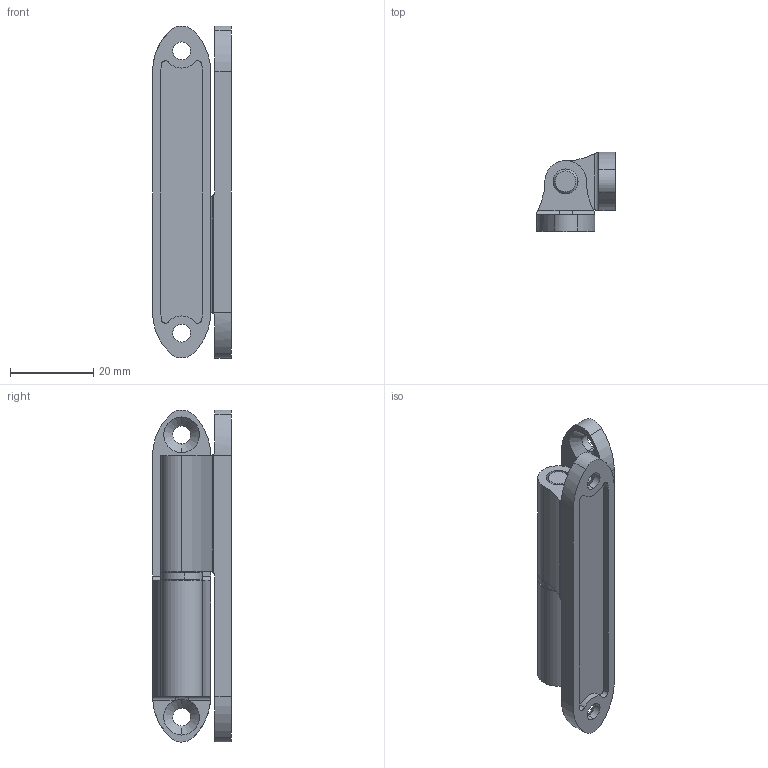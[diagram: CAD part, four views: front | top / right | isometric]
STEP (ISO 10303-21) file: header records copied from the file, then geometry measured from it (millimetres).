
FILE_DESCRIPTION (( 'STEP AP214' ), '1' );
FILE_NAME ('SK2-029W.STEP', '2020-04-15T06:14:54', ( 'admin' ), ( 'Microsoft' ), 'SwSTEP 2.0', 'SolidWorks 2018', '' );
FILE_SCHEMA (( 'AUTOMOTIVE_DESIGN' ));
Length unit declared in the file: millimetre
Products named in the file (4): 2-029W-F3; 2-029W-F2; 2-029W-F1; SK2-029W
Assembly tree (3 placements, depth 2):
  SK2-029W
    2-029W-F1
    2-029W-F2
    2-029W-F3
Bounding box: 19 x 19 x 79.97 mm (x, y, z)
Volume: 13556.2 mm3; surface area: 9816.8 mm2
Topology: 4 solids, 4 shells, 106 faces, 276 edges, 178 vertices
Faces by surface type: cylinder 68, plane 24, cone 12, bspline 2
Entity records: 3593 total; most frequent: CARTESIAN_POINT 740, DIRECTION 604, ORIENTED_EDGE 552, EDGE_CURVE 276, AXIS2_PLACEMENT_3D 246, VERTEX_POINT 178, CIRCLE 136, EDGE_LOOP 120
